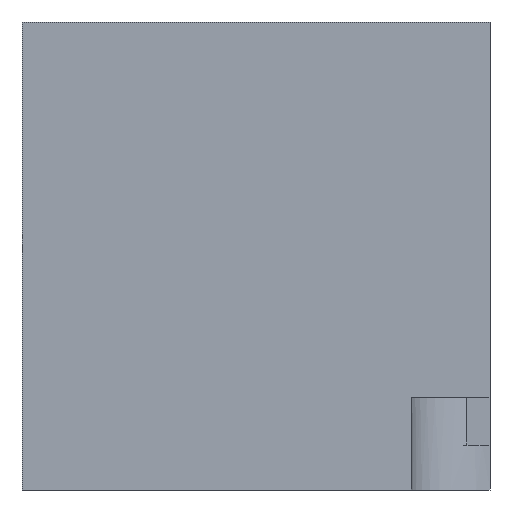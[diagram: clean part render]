
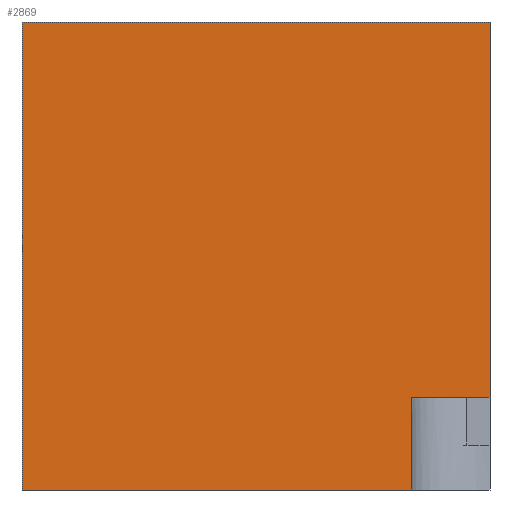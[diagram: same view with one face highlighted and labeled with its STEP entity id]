
A CAD part, left-side view. The second image highlights one B-rep face of the part: STEP entity #2869.
In plain terms, the highlighted planar face has unit normal (-1, 0, 0).
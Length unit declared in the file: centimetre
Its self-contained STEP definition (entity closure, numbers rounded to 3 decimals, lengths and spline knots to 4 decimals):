
#77 = DIRECTION ( 'NONE',  ( 0., 0., -1. ) ) ;
#111 = VERTEX_POINT ( 'NONE', #1362 ) ;
#223 = VERTEX_POINT ( 'NONE', #3304 ) ;
#344 = VECTOR ( 'NONE', #1698, 100. ) ;
#509 = EDGE_CURVE ( 'NONE', #111, #1484, #1923, .T. ) ;
#518 = VERTEX_POINT ( 'NONE', #2989 ) ;
#834 = EDGE_CURVE ( 'NONE', #1484, #223, #2791, .T. ) ;
#858 = VERTEX_POINT ( 'NONE', #3077 ) ;
#1027 = CARTESIAN_POINT ( 'NONE',  ( 0., 1000., 0. ) ) ;
#1105 = FACE_OUTER_BOUND ( 'NONE', #3409, .T. ) ;
#1120 = CARTESIAN_POINT ( 'NONE',  ( 0., 0., 197.9324 ) ) ;
#1134 = VECTOR ( 'NONE', #1642, 100. ) ;
#1142 = VECTOR ( 'NONE', #2443, 100. ) ;
#1362 = CARTESIAN_POINT ( 'NONE',  ( 0., 1000., 0. ) ) ;
#1392 = ORIENTED_EDGE ( 'NONE', *, *, #509, .T. ) ;
#1458 = VECTOR ( 'NONE', #3015, 100. ) ;
#1470 = CARTESIAN_POINT ( 'NONE',  ( 0., 0., 1000. ) ) ;
#1473 = VECTOR ( 'NONE', #2356, 100. ) ;
#1484 = VERTEX_POINT ( 'NONE', #1958 ) ;
#1602 = EDGE_CURVE ( 'NONE', #858, #111, #2717, .T. ) ;
#1642 = DIRECTION ( 'NONE',  ( 0., -1., 0. ) ) ;
#1667 = CARTESIAN_POINT ( 'NONE',  ( 0., 167.7927, 197.9324 ) ) ;
#1679 = CARTESIAN_POINT ( 'NONE',  ( 0., 1000., 1000. ) ) ;
#1689 = VERTEX_POINT ( 'NONE', #1120 ) ;
#1698 = DIRECTION ( 'NONE',  ( 0., 0., 1. ) ) ;
#1714 = DIRECTION ( 'NONE',  ( 1., 0., 0. ) ) ;
#1923 = LINE ( 'NONE', #1027, #1142 ) ;
#1949 = LINE ( 'NONE', #2494, #1458 ) ;
#1958 = CARTESIAN_POINT ( 'NONE',  ( 0., 167.7927, 0. ) ) ;
#1968 = LINE ( 'NONE', #2208, #1134 ) ;
#2006 = ORIENTED_EDGE ( 'NONE', *, *, #1602, .T. ) ;
#2029 = LINE ( 'NONE', #1470, #1473 ) ;
#2031 = EDGE_CURVE ( 'NONE', #518, #1689, #2029, .T. ) ;
#2036 = ORIENTED_EDGE ( 'NONE', *, *, #2031, .F. ) ;
#2194 = CARTESIAN_POINT ( 'NONE',  ( 0., 1000., 1000. ) ) ;
#2208 = CARTESIAN_POINT ( 'NONE',  ( 0., 1000., 1000. ) ) ;
#2356 = DIRECTION ( 'NONE',  ( 0., 0., -1. ) ) ;
#2443 = DIRECTION ( 'NONE',  ( 0., -1., 0. ) ) ;
#2494 = CARTESIAN_POINT ( 'NONE',  ( 0., 1000., 197.9324 ) ) ;
#2524 = ORIENTED_EDGE ( 'NONE', *, *, #2848, .F. ) ;
#2545 = ORIENTED_EDGE ( 'NONE', *, *, #834, .T. ) ;
#2717 = LINE ( 'NONE', #1679, #3103 ) ;
#2791 = LINE ( 'NONE', #1667, #344 ) ;
#2848 = EDGE_CURVE ( 'NONE', #858, #518, #1968, .T. ) ;
#2869 = ADVANCED_FACE ( 'NONE', ( #1105 ), #3020, .F. ) ;
#2989 = CARTESIAN_POINT ( 'NONE',  ( 0., 0., 1000. ) ) ;
#2990 = AXIS2_PLACEMENT_3D ( 'NONE', #2194, #1714, #77 ) ;
#3015 = DIRECTION ( 'NONE',  ( 0., 1., 0. ) ) ;
#3020 = PLANE ( 'NONE',  #2990 ) ;
#3077 = CARTESIAN_POINT ( 'NONE',  ( 0., 1000., 1000. ) ) ;
#3103 = VECTOR ( 'NONE', #3298, 100. ) ;
#3252 = EDGE_CURVE ( 'NONE', #1689, #223, #1949, .T. ) ;
#3298 = DIRECTION ( 'NONE',  ( 0., 0., -1. ) ) ;
#3304 = CARTESIAN_POINT ( 'NONE',  ( 0., 167.7927, 197.9324 ) ) ;
#3409 = EDGE_LOOP ( 'NONE', ( #1392, #2545, #3427, #2036, #2524, #2006 ) ) ;
#3427 = ORIENTED_EDGE ( 'NONE', *, *, #3252, .F. ) ;
